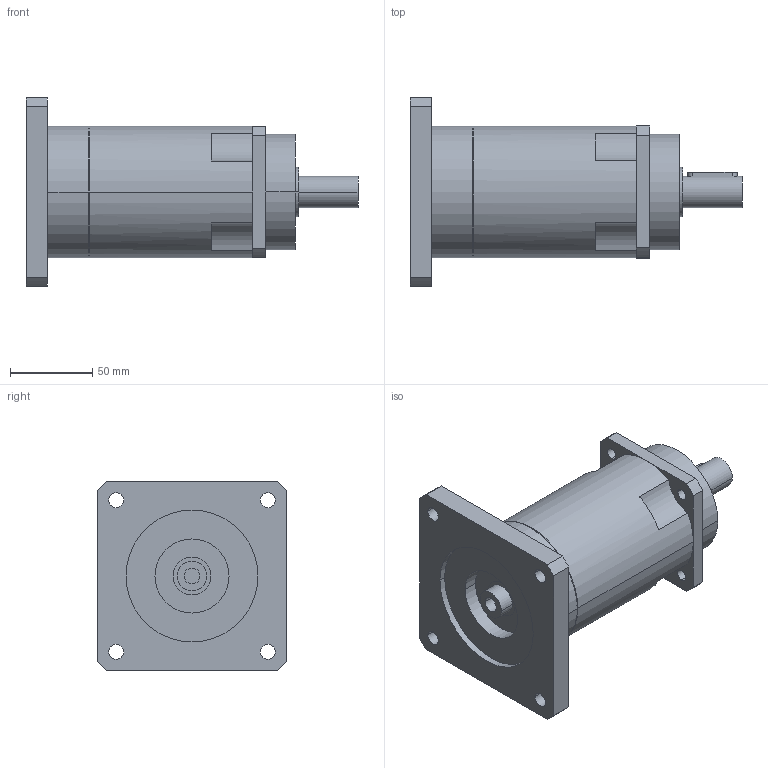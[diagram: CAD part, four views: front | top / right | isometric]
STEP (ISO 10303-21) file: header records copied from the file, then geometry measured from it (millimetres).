
FILE_DESCRIPTION(('CoCreate Modeling STEP Export'),'2;1');
FILE_NAME('GPR100_ig-48-64-80-100-120-144-180-216_19_B5_9.52_P30.stp','2014-08-26T11:58:03',(''),(''),'CoCreate Modeling STEP processor for AP214 (Solid Model)','CoCreate Modeling 16.00C 25-Feb-2009 (C) Parametric Technology GmbH','');
FILE_SCHEMA(('AUTOMOTIVE_DESIGN { 1 0 10303 214 1 1 1 1 }'));
Length unit declared in the file: millimetre
Products named in the file (2): GPR100_ig-48-64-80-100-120-144-180-216_19_B5_9.52_P30
Assembly tree (1 placements, depth 2):
  GPR100_ig-48-64-80-100-120-144-180-216_19_B5_9.52_P30
    GPR100_ig-48-64-80-100-120-144-180-216_19_B5_9.52_P30
Bounding box: 201.4 x 115 x 115 mm (x, y, z)
Volume: 881084.7 mm3; surface area: 81177.7 mm2
Topology: 1 solids, 1 shells, 89 faces, 238 edges, 160 vertices
Faces by surface type: cylinder 52, plane 31, cone 6
Entity records: 2567 total; most frequent: ORIENTED_EDGE 472, CARTESIAN_POINT 465, DIRECTION 386, EDGE_CURVE 236, VERTEX_POINT 160, AXIS2_PLACEMENT_3D 145, EDGE_LOOP 116, VECTOR 96
